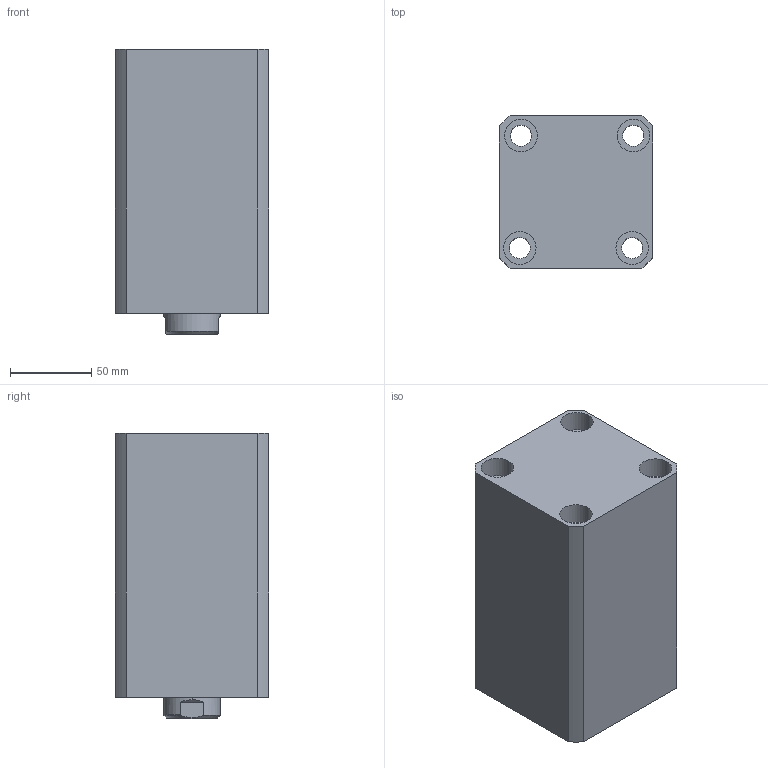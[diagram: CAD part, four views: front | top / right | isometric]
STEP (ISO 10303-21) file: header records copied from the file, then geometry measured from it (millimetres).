
FILE_DESCRIPTION (( 'STEP AP214' ), '1' );
FILE_NAME ('chtb-sdma63x95n_asm.STEP', '2018-05-16T02:45:55', ( 'Windows' ), ( 'Microsoft' ), 'SwSTEP 2.0', 'SolidWorks 2015', '' );
FILE_SCHEMA (( 'AUTOMOTIVE_DESIGN' ));
Length unit declared in the file: millimetre
Products named in the file (4): CHTB-SDMA63X95NBT; CHTB63X95NHSG; CHTB-63QG; chtb-sdma63x95n_asm
Assembly tree (3 placements, depth 2):
  chtb-sdma63x95n_asm
    CHTB-63QG
    CHTB63X95NHSG
    CHTB-SDMA63X95NBT
Bounding box: 94 x 94 x 175 mm (x, y, z)
Volume: 1107675.6 mm3; surface area: 183739.6 mm2
Topology: 3 solids, 3 shells, 165 faces, 472 edges, 321 vertices
Faces by surface type: cylinder 107, plane 31, bspline 12, cone 8, torus 7
Entity records: 17727 total; most frequent: CARTESIAN_POINT 13576, ORIENTED_EDGE 932, DIRECTION 716, EDGE_CURVE 466, VERTEX_POINT 321, AXIS2_PLACEMENT_3D 288, EDGE_LOOP 197, ADVANCED_FACE 165
